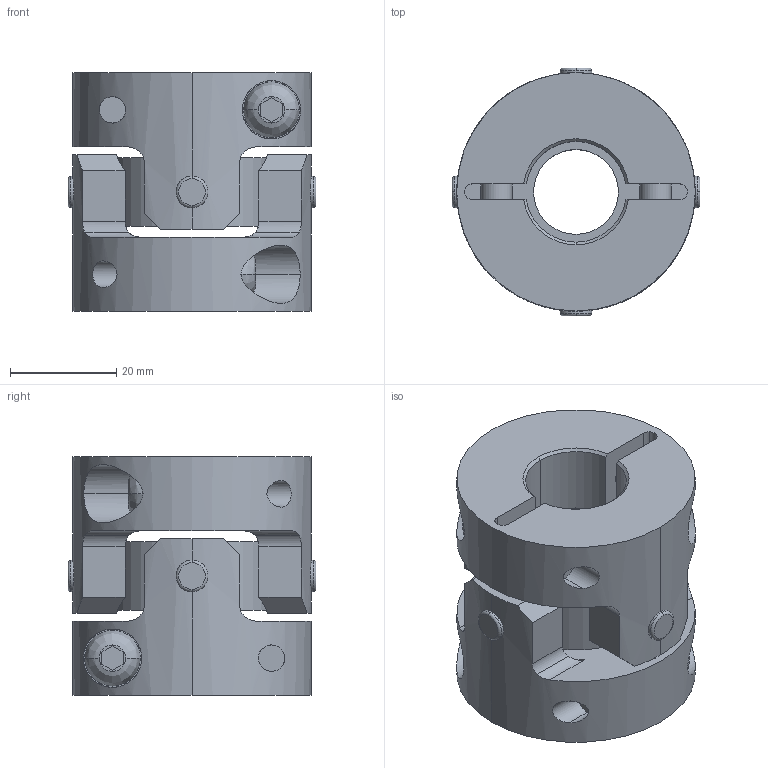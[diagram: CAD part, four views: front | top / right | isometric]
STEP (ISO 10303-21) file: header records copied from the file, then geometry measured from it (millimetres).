
FILE_DESCRIPTION((''),'2;1');
FILE_NAME('UA-45C-19×19.stp','2013-05-22T09:47:43',(''),(''),'AutoCAD STEP 2000i','AutoCAD 2000i',', , ');
FILE_SCHEMA(('CONFIG_CONTROL_DESIGN'));
Length unit declared in the file: millimetre
Products named in the file (8): UA-45C-17×17; 忣兜1; UA-4502-D17-1; BTN-M6; UA-4502-D17; UA-4502-D08-1; UA-4502-D08; UA45-SEN
Assembly tree (10 placements, depth 3):
  UA-45C-17×17
    忣兜1
    UA-4502-D17-1
      BTN-M6
    UA-4502-D17
      BTN-M6
    UA-4502-D08-1
      BTN-M6
    UA-4502-D08
      BTN-M6
    UA45-SEN
Bounding box: 46.73 x 46.73 x 45 mm (x, y, z)
Volume: 47178.8 mm3; surface area: 19261.6 mm2
Topology: 1 solids, 1 shells, 206 faces, 554 edges, 364 vertices
Faces by surface type: cylinder 96, plane 78, cone 16, bspline 8, torus 8
Entity records: 8551 total; most frequent: CARTESIAN_POINT 3195, ORIENTED_EDGE 1108, DIRECTION 1072, EDGE_CURVE 554, AXIS2_PLACEMENT_3D 413, VERTEX_POINT 364, VECTOR 246, LINE 246
